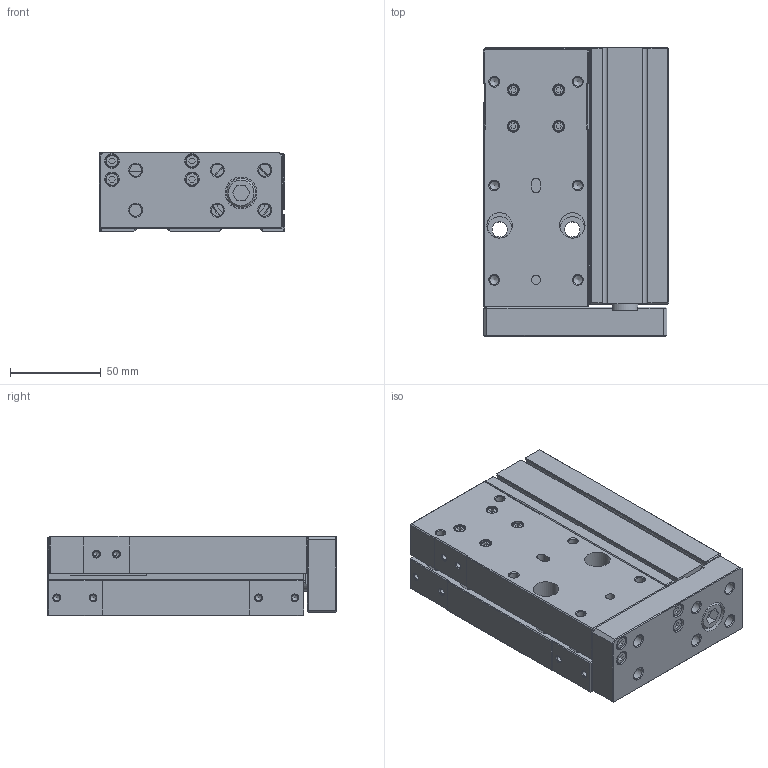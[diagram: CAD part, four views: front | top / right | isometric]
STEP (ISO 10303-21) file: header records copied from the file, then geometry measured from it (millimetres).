
FILE_DESCRIPTION((''),'2;1');
FILE_NAME('I:\3D電子目錄\氣缸\FMR(L)\FMR(L)\FMR32x75.stp','2007-10-15T16:12:27',('Administrator'),(''),'Autodesk Inventor 11','Autodesk Inventor 11','');
FILE_SCHEMA(('AUTOMOTIVE_DESIGN { 1 0 10303 214 1 1 1 1 }'));
Length unit declared in the file: millimetre
Products named in the file (1): FMR32x75
Bounding box: 102 x 158.8 x 44 mm (x, y, z)
Volume: 520144.8 mm3; surface area: 129825.4 mm2
Topology: 14 solids, 14 shells, 540 faces, 1249 edges, 784 vertices
Faces by surface type: plane 329, bspline 114, cylinder 49, cone 48
Full cylindrical faces by diameter (mm): 1.5 x2, 2 x2, 4.2 x1, 5 x2, 5.5 x4, 7 x4, 11 x1, 11.5 x1, 12 x1, 14 x4, 16 x4, 18 x1, 20 x1, 28.5 x2, 32 x3, 34 x3, 36 x2
Entity records: 15059 total; most frequent: CARTESIAN_POINT 3999, DIRECTION 2162, ORIENTED_EDGE 2034, EDGE_CURVE 1017, EDGE_LOOP 814, AXIS2_PLACEMENT_3D 732, VERTEX_POINT 719, VECTOR 698
